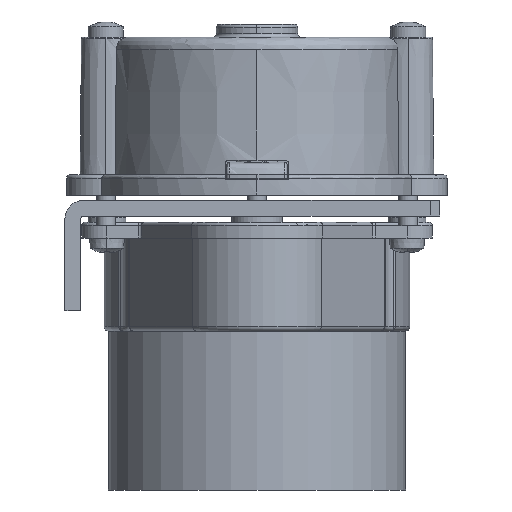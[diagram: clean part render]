
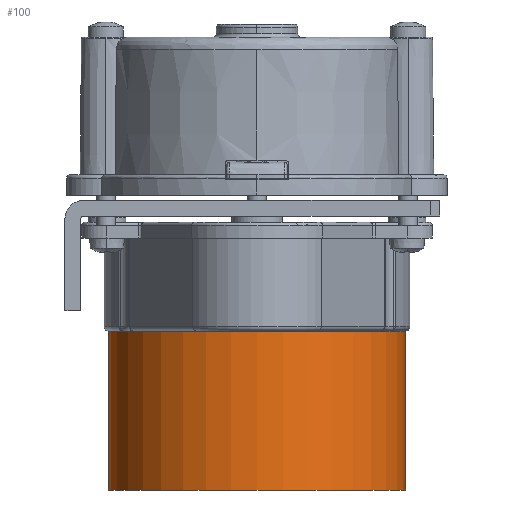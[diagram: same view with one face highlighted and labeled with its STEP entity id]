
A CAD part, front view. The second image highlights one B-rep face of the part: STEP entity #100.
In plain terms, the highlighted cylindrical face has radius 23.6 mm (diameter 47.2 mm), a partial arc.
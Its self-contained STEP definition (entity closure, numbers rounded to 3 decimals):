
#100 = ADVANCED_FACE ( 'NONE', ( #6323 ), #28320, .T. ) ;
#2387 = CARTESIAN_POINT ( 'NONE',  ( 98.869, 72.855, -26.158 ) ) ;
#3802 = VERTEX_POINT ( 'NONE', #9447 ) ;
#4489 = CIRCLE ( 'NONE', #20261, 23.6 ) ;
#5517 = CARTESIAN_POINT ( 'NONE',  ( 51.669, 72.855, -26.158 ) ) ;
#6087 = AXIS2_PLACEMENT_3D ( 'NONE', #25047, #18140, #22828 ) ;
#6323 = FACE_OUTER_BOUND ( 'NONE', #10892, .T. ) ;
#6444 = CARTESIAN_POINT ( 'NONE',  ( 98.869, 72.855, -0.958 ) ) ;
#6875 = ORIENTED_EDGE ( 'NONE', *, *, #20131, .T. ) ;
#6910 = EDGE_CURVE ( 'NONE', #16993, #27860, #22684, .T. ) ;
#9082 = ORIENTED_EDGE ( 'NONE', *, *, #13362, .F. ) ;
#9364 = AXIS2_PLACEMENT_3D ( 'NONE', #17586, #27204, #13065 ) ;
#9447 = CARTESIAN_POINT ( 'NONE',  ( 51.669, 72.855, -0.958 ) ) ;
#10892 = EDGE_LOOP ( 'NONE', ( #20506, #22719, #6875, #9082 ) ) ;
#11914 = VECTOR ( 'NONE', #16364, 1000. ) ;
#13065 = DIRECTION ( 'NONE',  ( -1., 0., 0. ) ) ;
#13362 = EDGE_CURVE ( 'NONE', #3802, #21964, #14207, .T. ) ;
#14207 = LINE ( 'NONE', #5517, #20989 ) ;
#14731 = DIRECTION ( 'NONE',  ( 0., 0., -1. ) ) ;
#16364 = DIRECTION ( 'NONE',  ( 0., 0., -1. ) ) ;
#16993 = VERTEX_POINT ( 'NONE', #6444 ) ;
#17223 = DIRECTION ( 'NONE',  ( -1., 0., 0. ) ) ;
#17586 = CARTESIAN_POINT ( 'NONE',  ( 75.269, 72.855, -26.158 ) ) ;
#18140 = DIRECTION ( 'NONE',  ( 0., 0., -1. ) ) ;
#20131 = EDGE_CURVE ( 'NONE', #27860, #21964, #29104, .T. ) ;
#20261 = AXIS2_PLACEMENT_3D ( 'NONE', #28482, #14731, #17223 ) ;
#20437 = CARTESIAN_POINT ( 'NONE',  ( 51.669, 72.855, -26.158 ) ) ;
#20506 = ORIENTED_EDGE ( 'NONE', *, *, #25684, .T. ) ;
#20989 = VECTOR ( 'NONE', #28468, 1000. ) ;
#21964 = VERTEX_POINT ( 'NONE', #20437 ) ;
#22684 = LINE ( 'NONE', #22937, #11914 ) ;
#22719 = ORIENTED_EDGE ( 'NONE', *, *, #6910, .T. ) ;
#22828 = DIRECTION ( 'NONE',  ( -1., 0., 0. ) ) ;
#22937 = CARTESIAN_POINT ( 'NONE',  ( 98.869, 72.855, -26.158 ) ) ;
#25047 = CARTESIAN_POINT ( 'NONE',  ( 75.269, 72.855, -26.158 ) ) ;
#25684 = EDGE_CURVE ( 'NONE', #3802, #16993, #4489, .T. ) ;
#27204 = DIRECTION ( 'NONE',  ( 0., 0., 1. ) ) ;
#27860 = VERTEX_POINT ( 'NONE', #2387 ) ;
#28320 = CYLINDRICAL_SURFACE ( 'NONE', #6087, 23.6 ) ;
#28468 = DIRECTION ( 'NONE',  ( 0., 0., -1. ) ) ;
#28482 = CARTESIAN_POINT ( 'NONE',  ( 75.269, 72.855, -0.958 ) ) ;
#29104 = CIRCLE ( 'NONE', #9364, 23.6 ) ;
